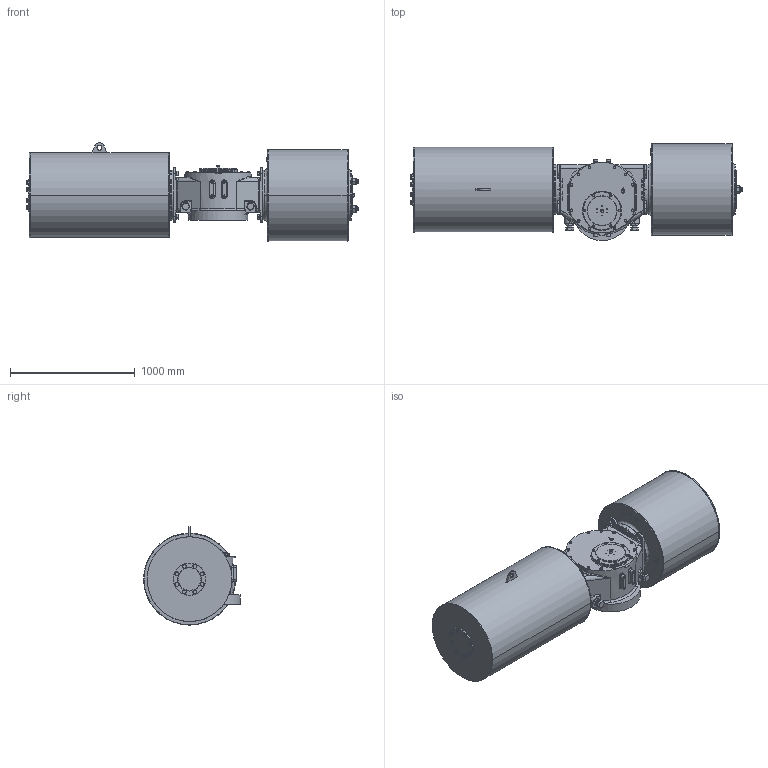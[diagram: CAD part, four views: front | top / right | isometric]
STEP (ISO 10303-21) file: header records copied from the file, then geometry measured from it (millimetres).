
FILE_DESCRIPTION (( 'STEP AP203' ), '1' );
FILE_NAME ('VTS6-700-SR-FO.STEP', '2023-01-01T09:55:48', ( '' ), ( '' ), 'SwSTEP 2.0', 'SolidWorks 2020', '' );
FILE_SCHEMA (( 'CONFIG_CONTROL_DESIGN' ));
Length unit declared in the file: millimetre
Products named in the file (1): VTS6-700-SR-FO
Bounding box: 2664.72 x 778 x 789.5 mm (x, y, z)
Volume: 806716335.3 mm3; surface area: 8163634.7 mm2
Topology: 4 solids, 15 shells, 2458 faces, 6293 edges, 3985 vertices
Faces by surface type: plane 991, cylinder 773, cone 609, bspline 85
Entity records: 88218 total; most frequent: CARTESIAN_POINT 29409, ORIENTED_EDGE 12446, DIRECTION 12266, EDGE_CURVE 6223, AXIS2_PLACEMENT_3D 4900, VERTEX_POINT 3985, EDGE_LOOP 2776, CIRCLE 2526
